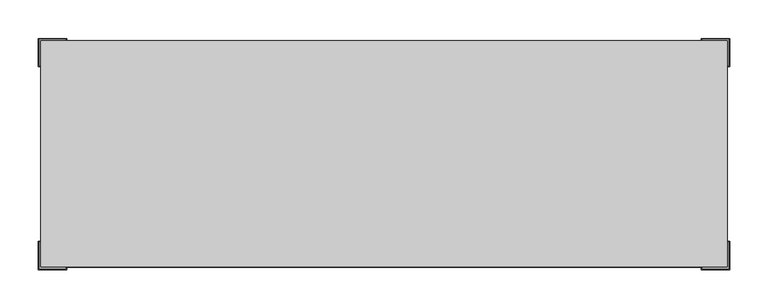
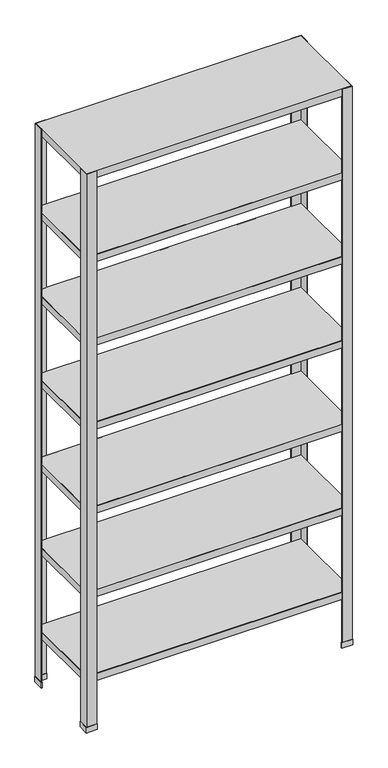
"""IFC4 building model written with IfcOpenShell, lengths in millimetres: furniture geometry, 5.12 Estantería metálica : 5.12 Estantería metálica."""

from ifc_helpers import new_model, si_unit, frame, origin, origin_with_axes, place, context, project, spatial, polyline, outline, extrude, faceted_brep, source, transform, mapped, element, save


def furniture_776c19b2(model_context):
    return source(origin(), model_context, "Body", "SolidModel", [
        extrude(outline(polyline([(-451.0, 114.0), (-451.0, 151.0), (-414.0, 151.0), (-414.0, 147.0), (-447.0, 147.0), (-447.0, 114.0), (-451.0, 114.0)])), origin_with_axes(), (0.0, 0.0, 1.0), 20.0),
        extrude(outline(polyline([(414.0, 147.0), (414.0, 151.0), (451.0, 151.0), (451.0, 114.0), (447.0, 114.0), (447.0, 147.0), (414.0, 147.0)])), origin_with_axes(), (0.0, 0.0, 1.0), 20.0),
        extrude(outline(polyline([(414.0, -151.0), (414.0, -147.0), (447.0, -147.0), (447.0, -114.0), (451.0, -114.0), (451.0, -151.0), (414.0, -151.0)])), origin_with_axes(), (0.0, 0.0, 1.0), 20.0),
        extrude(outline(polyline([(-451.0, -151.0), (-451.0, -114.0), (-447.0, -114.0), (-447.0, -147.0), (-414.0, -147.0), (-414.0, -151.0), (-451.0, -151.0)])), origin_with_axes(), (0.0, 0.0, 1.0), 20.0),
        extrude(outline(polyline([(448.0, 148.0), (448.0, -148.0), (-448.0, -148.0), (-448.0, 148.0), (448.0, 148.0)]), holes=[polyline([(447.0, 147.0), (-447.0, 147.0), (-447.0, -147.0), (447.0, -147.0), (447.0, 147.0)])]), frame((0.0, 0.0, 174.0), z_axis=(0.0, 0.0, 1.0), x_axis=(1.0, 0.0, 0.0)), (0.0, 0.0, 1.0), 25.0),
        extrude(outline(polyline([(448.0, 148.0), (448.0, -148.0), (-448.0, -148.0), (-448.0, 148.0), (448.0, 148.0)])), frame((0.0, 0.0, 199.0), z_axis=(0.0, 0.0, 1.0), x_axis=(1.0, 0.0, 0.0)), (0.0, 0.0, 1.0), 1.0),
        extrude(outline(polyline([(448.0, 148.0), (448.0, -148.0), (-448.0, -148.0), (-448.0, 148.0), (448.0, 148.0)]), holes=[polyline([(447.0, 147.0), (-447.0, 147.0), (-447.0, -147.0), (447.0, -147.0), (447.0, 147.0)])]), frame((0.0, 0.0, 474.0), z_axis=(0.0, 0.0, 1.0), x_axis=(1.0, 0.0, 0.0)), (0.0, 0.0, 1.0), 25.0),
        extrude(outline(polyline([(448.0, 148.0), (448.0, -148.0), (-448.0, -148.0), (-448.0, 148.0), (448.0, 148.0)])), frame((0.0, 0.0, 499.0), z_axis=(0.0, 0.0, 1.0), x_axis=(1.0, 0.0, 0.0)), (0.0, 0.0, 1.0), 1.0),
        extrude(outline(polyline([(448.0, 148.0), (448.0, -148.0), (-448.0, -148.0), (-448.0, 148.0), (448.0, 148.0)]), holes=[polyline([(447.0, 147.0), (-447.0, 147.0), (-447.0, -147.0), (447.0, -147.0), (447.0, 147.0)])]), frame((0.0, 0.0, 774.0), z_axis=(0.0, 0.0, 1.0), x_axis=(1.0, 0.0, 0.0)), (0.0, 0.0, 1.0), 25.0),
        extrude(outline(polyline([(448.0, 148.0), (448.0, -148.0), (-448.0, -148.0), (-448.0, 148.0), (448.0, 148.0)])), frame((0.0, 0.0, 799.0), z_axis=(0.0, 0.0, 1.0), x_axis=(1.0, 0.0, 0.0)), (0.0, 0.0, 1.0), 1.0),
        extrude(outline(polyline([(448.0, 148.0), (448.0, -148.0), (-448.0, -148.0), (-448.0, 148.0), (448.0, 148.0)]), holes=[polyline([(447.0, 147.0), (-447.0, 147.0), (-447.0, -147.0), (447.0, -147.0), (447.0, 147.0)])]), frame((0.0, 0.0, 1074.0), z_axis=(0.0, 0.0, 1.0), x_axis=(1.0, 0.0, 0.0)), (0.0, 0.0, 1.0), 25.0),
        extrude(outline(polyline([(448.0, 148.0), (448.0, -148.0), (-448.0, -148.0), (-448.0, 148.0), (448.0, 148.0)])), frame((0.0, 0.0, 1099.0), z_axis=(0.0, 0.0, 1.0), x_axis=(1.0, 0.0, 0.0)), (0.0, 0.0, 1.0), 1.0),
        extrude(outline(polyline([(448.0, 148.0), (448.0, -148.0), (-448.0, -148.0), (-448.0, 148.0), (448.0, 148.0)]), holes=[polyline([(447.0, 147.0), (-447.0, 147.0), (-447.0, -147.0), (447.0, -147.0), (447.0, 147.0)])]), frame((0.0, 0.0, 1374.0), z_axis=(0.0, 0.0, 1.0), x_axis=(1.0, 0.0, 0.0)), (0.0, 0.0, 1.0), 25.0),
        extrude(outline(polyline([(448.0, 148.0), (448.0, -148.0), (-448.0, -148.0), (-448.0, 148.0), (448.0, 148.0)])), frame((0.0, 0.0, 1399.0), z_axis=(0.0, 0.0, 1.0), x_axis=(1.0, 0.0, 0.0)), (0.0, 0.0, 1.0), 1.0),
        extrude(outline(polyline([(448.0, 148.0), (448.0, -148.0), (-448.0, -148.0), (-448.0, 148.0), (448.0, 148.0)]), holes=[polyline([(447.0, 147.0), (-447.0, 147.0), (-447.0, -147.0), (447.0, -147.0), (447.0, 147.0)])]), frame((0.0, 0.0, 1674.0), z_axis=(0.0, 0.0, 1.0), x_axis=(1.0, 0.0, 0.0)), (0.0, 0.0, 1.0), 25.0),
        extrude(outline(polyline([(448.0, 148.0), (448.0, -148.0), (-448.0, -148.0), (-448.0, 148.0), (448.0, 148.0)])), frame((0.0, 0.0, 1699.0), z_axis=(0.0, 0.0, 1.0), x_axis=(1.0, 0.0, 0.0)), (0.0, 0.0, 1.0), 1.0),
        faceted_brep([(448.0, 148.0, 2000.0), (-448.0, 148.0, 2000.0), (-448.0, -148.0, 2000.0), (448.0, -148.0, 2000.0), (447.0, 147.0, 1999.0), (447.0, -147.0, 1999.0), (-447.0, -147.0, 1999.0), (-447.0, 147.0, 1999.0), (448.0, 148.0, 1974.0), (-448.0, 148.0, 1974.0), (-448.0, -148.0, 1974.0), (448.0, -148.0, 1974.0), (447.0, 147.0, 1974.0), (-447.0, 147.0, 1974.0), (-447.0, -147.0, 1974.0), (447.0, -147.0, 1974.0)], [[[0, 1, 2, 3]], [[4, 5, 6, 7]], [[1, 0, 8, 9]], [[2, 1, 9, 10]], [[3, 2, 10, 11]], [[8, 0, 3, 11]], [[8, 11, 10, 9], [12, 13, 14, 15]], [[12, 15, 5, 4]], [[15, 14, 6, 5]], [[14, 13, 7, 6]], [[13, 12, 4, 7]]]),
        extrude(outline(polyline([(-450.0, 115.0), (-450.0, 150.0), (-415.0, 150.0), (-415.0, 148.0), (-448.0, 148.0), (-448.0, 115.0), (-450.0, 115.0)])), frame((0.0, 0.0, 20.0), z_axis=(0.0, 0.0, 1.0), x_axis=(1.0, 0.0, 0.0)), (0.0, 0.0, 1.0), 1980.0),
        extrude(outline(polyline([(450.0, 115.0), (448.0, 115.0), (448.0, 148.0), (415.0, 148.0), (415.0, 150.0), (450.0, 150.0), (450.0, 115.0)])), frame((0.0, 0.0, 20.0), z_axis=(0.0, 0.0, 1.0), x_axis=(1.0, 0.0, 0.0)), (0.0, 0.0, 1.0), 1980.0),
        extrude(outline(polyline([(-450.0, -115.0), (-448.0, -115.0), (-448.0, -148.0), (-415.0, -148.0), (-415.0, -150.0), (-450.0, -150.0), (-450.0, -115.0)])), frame((0.0, 0.0, 20.0), z_axis=(0.0, 0.0, 1.0), x_axis=(1.0, 0.0, 0.0)), (0.0, 0.0, 1.0), 1980.0),
        extrude(outline(polyline([(450.0, -115.0), (450.0, -150.0), (415.0, -150.0), (415.0, -148.0), (448.0, -148.0), (448.0, -115.0), (450.0, -115.0)])), frame((0.0, 0.0, 20.0), z_axis=(0.0, 0.0, 1.0), x_axis=(1.0, 0.0, 0.0)), (0.0, 0.0, 1.0), 1980.0),
    ])


if __name__ == "__main__":
    model = new_model("IFC4")
    model_context = context("Model", 3, world=origin())
    ifc_project = project(units=[si_unit("LENGTHUNIT", "METRE", prefix="MILLI")], contexts=[model_context])
    site = spatial("IfcSite", under=ifc_project)
    building = spatial("IfcBuilding", under=site)
    placement = place(None, origin())
    furniture_shape = furniture_776c19b2(model_context)
    element("IfcFurniture", 1, ObjectType="5.12 Estantería metálica : 5.12 Estantería metálica", at=placement, inside=building, context=model_context, shape_type="MappedRepresentation", body=[
        mapped(furniture_shape, transform((0.0, 0.0, 0.0), x_axis=(1.0, 0.0, 0.0), y_axis=(0.0, 1.0, 0.0), z_axis=(0.0, 0.0, 1.0))),
    ])
    save(model, "model.ifc")
